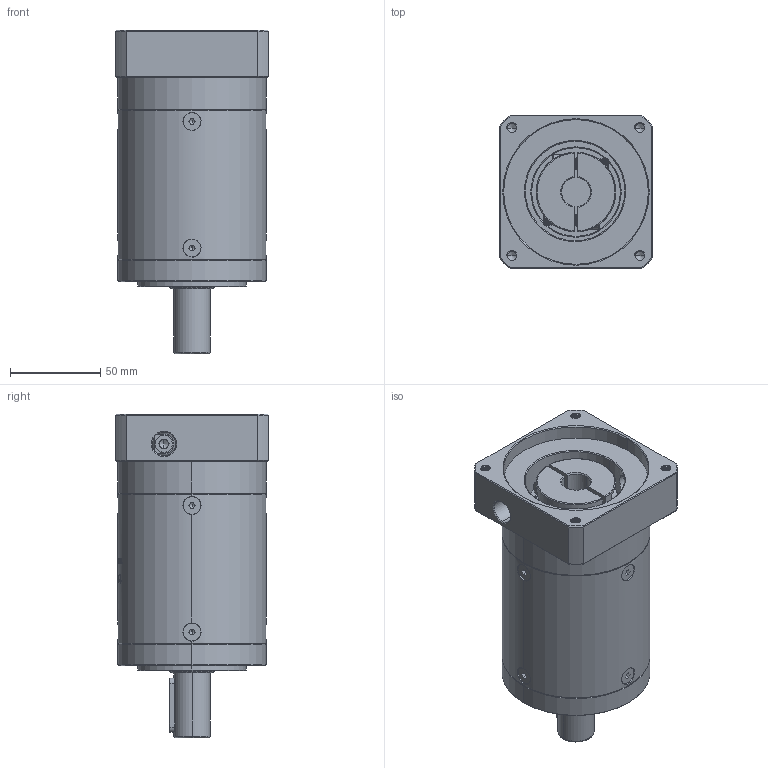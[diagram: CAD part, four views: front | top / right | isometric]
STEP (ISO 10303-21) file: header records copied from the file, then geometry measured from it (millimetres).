
FILE_DESCRIPTION (( 'STEP AP214' ), '1' );
FILE_NAME ('ZE80-D20-L3-16-80-100-M6.step', '2022-05-08T05:52:12', ( '' ), ( 'Microsoft' ), 'SwSTEP 2.0', 'SolidWorks 2016', '' );
FILE_SCHEMA (( 'AUTOMOTIVE_DESIGN' ));
Length unit declared in the file: millimetre
Products named in the file (1): ZE80-D20-L3-16-80-100-M6
Bounding box: 85 x 85 x 179 mm (x, y, z)
Volume: 716005.4 mm3; surface area: 95572.3 mm2
Topology: 13 solids, 13 shells, 2064 faces, 5366 edges, 3391 vertices
Faces by surface type: plane 891, cylinder 500, bspline 332, cone 324, torus 17
Entity records: 118290 total; most frequent: CARTESIAN_POINT 49406, ORIENTED_EDGE 10656, DIRECTION 8182, EDGE_CURVE 5328, VERTEX_POINT 3391, VECTOR 2860, LINE 2860, AXIS2_PLACEMENT_3D 2661
